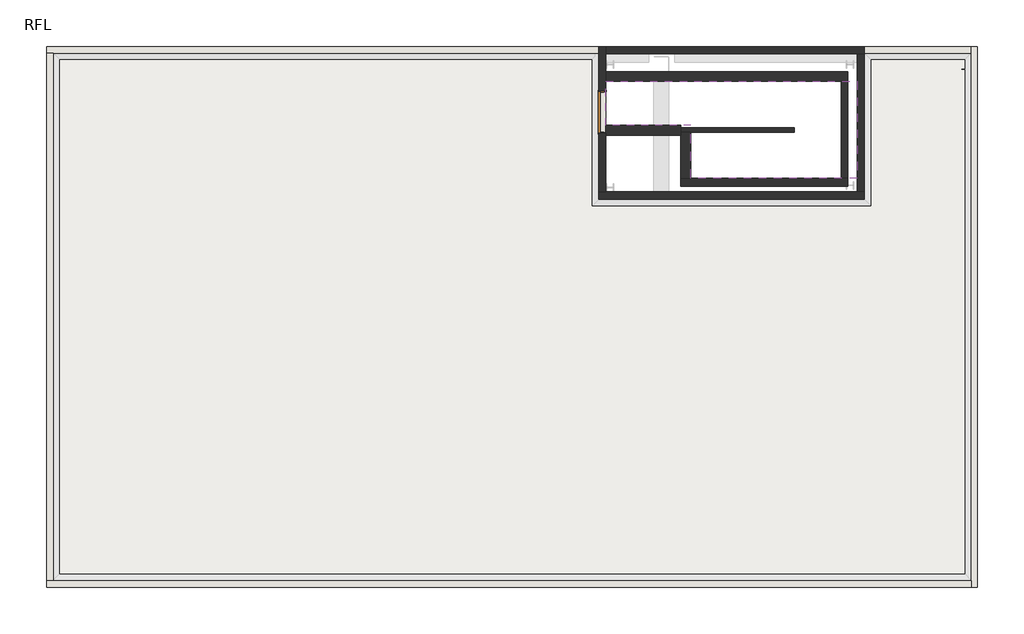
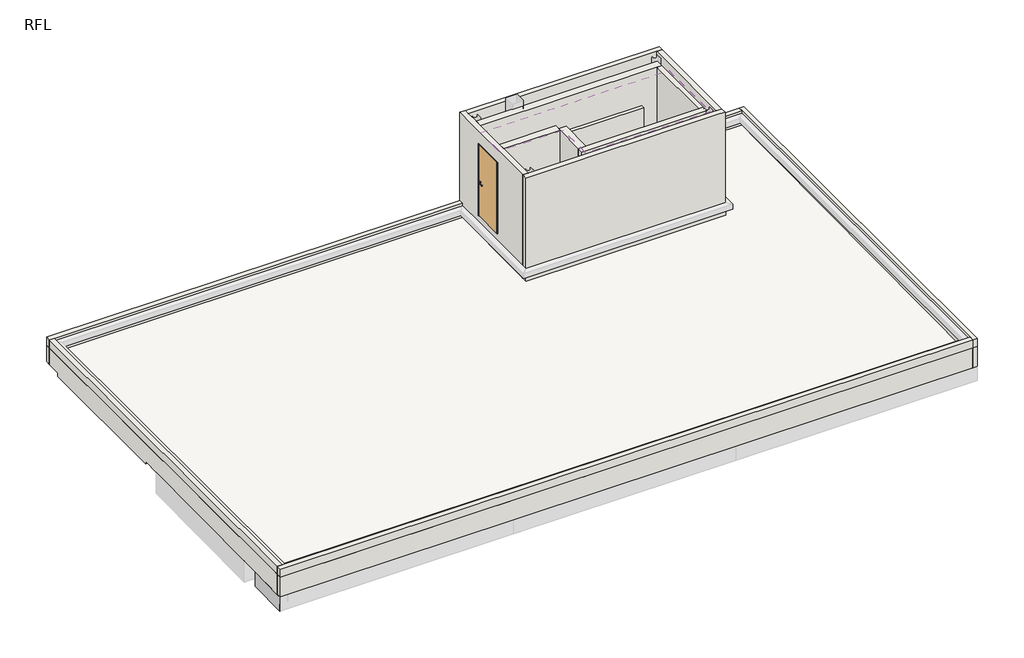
# One storey, part 1 of 2: 23 walls, 3 proxies, 1 beam, 1 covering, 1 door, 1 slab.
"""IFC4 building model written with IfcOpenShell, lengths in millimetres."""

from ifc_helpers import new_model, si_unit, frame, origin, place, context, project, spatial, polyline, outline, extrude, faceted_brep, transform, mapped, element, save
from components import door_2bc840b9

model = new_model("IFC4")

# Units and contexts
model_context = context("Model", 3, world=origin())
ifc_project = project(units=[si_unit("LENGTHUNIT", "METRE", prefix="MILLI")], contexts=[model_context])

# Site, building, storey
site = spatial("IfcSite", under=ifc_project)
building = spatial("IfcBuilding", under=site)
storey = spatial("IfcBuildingStorey", under=building, Name="RFL", Elevation=10000.0)

# Beam
placement = place(None, origin())
element("IfcBeam", 1, ObjectType="RC_2 : SG1(400X180)", at=placement, inside=storey, context=model_context, shape_type="Brep", body=[
    faceted_brep([(-70.0, -1405.9027414, 9449.1512175), (-70.0, -1406.0137522, 9460.0), (-70.0, -1409.9955504, 9849.1302781), (-270.0, -1409.9955504, 9849.1302781), (-270.0, -1406.0137522, 9460.0), (-270.0, -1405.9027414, 9449.1512175), (-125.0, -1405.9027414, 9449.1512175), (-70.0, -250.0, 9460.9790595), (-70.0, -250.0, 9861.0), (-70.0, -1230.0, 9850.972093), (-140.0, -250.0, 9861.0), (-270.0, -250.0, 9861.0), (-270.0, -1230.0, 9850.972093), (-270.0, -1290.0, 9850.3581395), (-270.0, -250.0, 9460.9790595), (-125.0, -250.0, 9460.9790595)], [[[0, 1, 2, 3, 4, 5, 6]], [[2, 1, 0, 7, 8, 9]], [[3, 2, 9, 8, 10, 11, 12, 13]], [[5, 4, 3, 13, 12, 11, 14]], [[0, 6, 5, 14, 15, 7]], [[8, 7, 15, 14, 11, 10]]]),
])

# Proxies
element("IfcBuildingElementProxy", 2, Name="Reveals", at=placement, inside=storey, context=model_context, shape_type="Brep", body=[
    faceted_brep([(16175.0, 6380.0, 10420.0), (16185.0, 6370.0, 10420.0), (16185.0, 6370.0, 10418.5615385), (10830.0, 6380.0, 10420.0), (10820.0, 6370.0, 10418.5615385), (10820.0, 6370.0, 10420.0)], [[[0, 1, 2]], [[3, 4, 5]], [[1, 0, 3, 5]], [[2, 1, 5, 4]], [[0, 2, 4, 3]]]),
])
element("IfcBuildingElementProxy", 3, Name="Reveals", at=placement, inside=storey, context=model_context, shape_type="Brep", body=[
    faceted_brep([(10830.0, 9320.0, 10420.0), (10820.0, 9320.0, 10418.5615385), (10820.0, 9320.0, 10420.0), (10830.0, 6380.0, 10420.0), (10820.0, 6370.0, 10420.0), (10820.0, 6370.0, 10418.5615385)], [[[0, 1, 2]], [[3, 4, 5]], [[0, 2, 4, 3]], [[2, 1, 5, 4]], [[1, 0, 3, 5]]]),
])
element("IfcBuildingElementProxy", 4, Name="Reveals", at=placement, inside=storey, context=model_context, shape_type="Brep", body=[
    faceted_brep([(16175.0, 6380.0, 10420.0), (16185.0, 6370.0, 10418.5615385), (16185.0, 6370.0, 10420.0), (16175.0, 9320.0, 10420.0), (16185.0, 9320.0, 10420.0), (16185.0, 9320.0, 10418.5615385)], [[[0, 1, 2]], [[3, 4, 5]], [[0, 2, 4, 3]], [[2, 1, 5, 4]], [[1, 0, 3, 5]]]),
])

# Covering
element("IfcCovering", 5, ObjectType="t=4mm", at=placement, inside=storey, context=model_context, shape_type="SweptSolid", body=[
    extrude(outline(polyline([(16030.0, 8747.5), (16030.0, 6804.5), (12685.0, 6804.5), (12685.0, 7862.5), (10975.0, 7862.5), (10975.0, 8747.5), (16030.0, 8747.5)])), frame((0.0, 0.0, 12950.0), z_axis=(0.0, 0.0, 1.0), x_axis=(1.0, 0.0, 0.0)), (0.0, 0.0, 1.0), 4.0),
])

# Door
door_shape = door_2bc840b9(model_context)
element("IfcDoor", 6, ObjectType="A1 片開 フラッシュ_A1枠 : SD15_H1800W700", at=placement, inside=storey, context=model_context, shape_type="MappedRepresentation", body=[
    mapped(door_shape, transform((10902.5, 8130.0, 10760.0), x_axis=(0.0, 1.0, 0.0), y_axis=(-1.0, 0.0, 0.0), z_axis=(0.0, 0.0, 1.0))),
])

# Slab
element("IfcSlab", 7, ObjectType="省エネ_RC屋根スラブ\u3000t150の上、アスファルト防水、押出法ポリスチレンフォーム1種t50、押さえコン", at=placement, inside=storey, context=model_context, shape_type="Brep", body=[
    faceted_brep([(18320.0, 9320.0, 9958.101509), (18320.0, -1290.0, 9850.6937686), (-140.0, -1290.0, 9850.6937686), (-140.0, 9320.0, 9958.101509), (10975.0, 9320.0, 9958.101509), (10975.0, 6525.0, 9929.80701), (16030.0, 6525.0, 9929.80701), (16030.0, 9320.0, 9958.101509), (17929.9999994, -150.0, 9862.2342798), (17929.9999994, 150.0, 9865.2712565), (12340.0000006, 150.0, 9865.2712565), (12340.0000006, -150.0, 9862.2342798), (5852.6999994, -150.0, 9862.2342798), (5852.6999994, 150.0, 9865.2712565), (237.3000006, 150.0, 9865.2712565), (237.3000006, -150.0, 9862.2342798), (18320.0, -1290.0, 10140.7086279), (18320.0, 9320.0, 10248.1163682), (16185.0, 9320.0, 10248.1163682), (16102.5, 9320.0, 10248.1163682), (16030.0, 9320.0, 10248.1163682), (16030.0, 9305.0, 10247.9645194), (16030.0, 6525.0, 10219.8218692), (10975.0, 6525.0, 10219.8218692), (10975.0, 9320.0, 10248.1163682), (-140.0, 9320.0, 10248.1163682), (-140.0, -1290.0, 10140.7086279), (17929.9999994, -150.0, 9870.0), (17929.9999994, 150.0, 9870.0), (12340.0000006, 150.0, 9870.0), (12340.0000006, -150.0, 9870.0), (5852.6999994, -150.0, 9870.0), (5852.6999994, 150.0, 9870.0), (237.3000006, 150.0, 9870.0), (237.3000006, -150.0, 9870.0)], [[[0, 1, 2, 3, 4, 5, 6, 7], [8, 9, 10, 11], [12, 13, 14, 15]], [[16, 17, 18, 19, 20, 21, 22, 23, 24, 25, 26]], [[1, 0, 17, 16]], [[2, 1, 16, 26]], [[3, 2, 26, 25]], [[4, 3, 25, 24]], [[5, 4, 24, 23]], [[6, 5, 23, 22]], [[7, 6, 22, 21, 20]], [[0, 7, 20, 19, 18, 17]], [[27, 28, 9, 8]], [[29, 30, 11, 10]], [[28, 29, 10, 9]], [[28, 27, 30, 29]], [[30, 27, 8, 11]], [[31, 32, 13, 12]], [[33, 34, 15, 14]], [[32, 33, 14, 13]], [[32, 31, 34, 33]], [[34, 31, 12, 15]]]),
])

# Walls
element("IfcWall", 8, ObjectType="• 省エネ_RC t120+押出法ポリスチレンフォーム保温版1種 t25", at=placement, inside=storey, context=model_context, shape_type="Brep", body=[
    faceted_brep([(16175.0, 6525.0, 10420.0), (16030.0, 6525.0, 10420.0), (10975.0, 6525.0, 10420.0), (10830.0, 6525.0, 10420.0), (10830.0, 6525.0, 10580.0), (10830.0, 6525.0, 13150.0), (10975.0, 6525.0, 13150.0), (16030.0, 6525.0, 13150.0), (16175.0, 6525.0, 13150.0), (16175.0, 6525.0, 10580.0), (10830.0, 6380.0, 10420.0), (16175.0, 6380.0, 10420.0), (16175.0, 6380.0, 10580.0), (16175.0, 6380.0, 13150.0), (16040.0, 6380.0, 13150.0), (10830.0, 6380.0, 13150.0), (10830.0, 6380.0, 10580.0), (10830.0, 6515.0, 13150.0)], [[[0, 1, 2, 3, 4, 5, 6, 7, 8, 9]], [[10, 11, 12, 13, 14, 15, 16]], [[3, 2, 1, 0, 11, 10]], [[8, 7, 6, 5, 17, 15, 14, 13]], [[3, 10, 16, 15, 17, 5, 4]], [[8, 13, 12, 11, 0, 9]]]),
])
element("IfcWall", 9, ObjectType="• 省エネ_RC t120+押出法ポリスチレンフォーム保温版1種 t25", at=placement, inside=storey, context=model_context, shape_type="Brep", body=[
    faceted_brep([(10975.0, 6525.0, 10420.0), (10975.0, 9305.0, 10420.0), (10975.0, 9450.0, 10420.0), (10975.0, 9450.0, 13150.0), (10975.0, 9305.0, 13150.0), (10975.0, 8947.5, 13150.0), (10975.0, 8747.5, 13150.0), (10975.0, 7862.5, 13150.0), (10975.0, 7662.5, 13150.0), (10975.0, 6525.0, 13150.0), (10975.0, 8557.5, 12787.5), (10975.0, 8557.5, 10760.0), (10975.0, 7702.5, 10760.0), (10975.0, 7702.5, 12787.5), (10830.0, 6525.0, 13150.0), (10830.0, 9315.0, 13150.0), (10830.0, 9450.0, 13150.0), (10830.0, 9450.0, 10650.0), (10830.0, 9450.0, 10420.0), (10830.0, 9320.0, 10420.0), (10830.0, 6525.0, 10420.0), (10830.0, 6525.0, 10580.0), (10830.0, 8557.5, 10760.0), (10830.0, 8557.5, 12787.5), (10830.0, 7702.5, 12787.5), (10830.0, 7702.5, 10760.0), (10902.5, 9450.0, 10420.0)], [[[0, 1, 2, 3, 4, 5, 6, 7, 8, 9], [10, 11, 12, 13]], [[14, 15, 16, 17, 18, 19, 20, 21], [22, 23, 24, 25]], [[2, 1, 0, 20, 19, 18, 26]], [[9, 8, 7, 6, 5, 4, 3, 16, 15, 14]], [[0, 9, 14, 21, 20]], [[10, 23, 22, 11]], [[24, 13, 12, 25]], [[23, 10, 13, 24]], [[25, 12, 11, 22]], [[3, 2, 26, 18, 17, 16]]]),
])
element("IfcWall", 10, ObjectType="• 省エネ_RC t120+押出法ポリスチレンフォーム保温版1種 t25", at=placement, inside=storey, context=model_context, shape_type="Brep", body=[
    faceted_brep([(16175.0, 9305.0, 13150.0), (16030.0, 9305.0, 13150.0), (10975.0, 9305.0, 13150.0), (10975.0, 9305.0, 10420.0), (10902.5, 9305.0, 10420.0), (10902.5, 9305.0, 9960.0), (11840.0, 9305.0, 9960.0), (11840.0, 9305.0, 9955.0), (12360.0, 9305.0, 9955.0), (12360.0, 9305.0, 9960.0), (16102.5, 9305.0, 9960.0), (16102.5, 9305.0, 10247.9645194), (16102.5, 9305.0, 10420.0), (16175.0, 9305.0, 10420.0), (10975.0, 9450.0, 13150.0), (16175.0, 9450.0, 13150.0), (16175.0, 9450.0, 10650.0), (16175.0, 9450.0, 10420.0), (16102.5, 9450.0, 10420.0), (16102.5, 9450.0, 9960.0), (12360.0, 9450.0, 9960.0), (12360.0, 9450.0, 9955.0), (11840.0, 9450.0, 9955.0), (11840.0, 9450.0, 9960.0), (10902.5, 9450.0, 9960.0), (10902.5, 9450.0, 10420.0), (10975.0, 9450.0, 10420.0), (16175.0, 9315.0, 13150.0), (16102.5, 9320.0, 9960.0), (10902.5, 9320.0, 9960.0), (10902.5, 9320.0, 10420.0), (16102.5, 9320.0, 10420.0), (16175.0, 9327.5, 10420.0), (16175.0, 9320.0, 10420.0)], [[[0, 1, 2, 3, 4, 5, 6, 7, 8, 9, 10, 11, 12, 13]], [[14, 15, 16, 17, 18, 19, 20, 21, 22, 23, 24, 25, 26]], [[21, 8, 7, 22]], [[2, 1, 0, 27, 15, 14]], [[20, 9, 8, 21]], [[9, 20, 19, 28, 10]], [[6, 23, 22, 7]], [[23, 6, 5, 29, 24]], [[4, 30, 25, 24, 29, 5]], [[12, 11, 10, 28, 19, 18, 31]], [[13, 12, 31, 18, 17, 32, 33]], [[15, 27, 0, 13, 33, 32, 17, 16]], [[26, 25, 30, 4, 3]], [[2, 14, 26, 3]]]),
])
element("IfcWall", 11, ObjectType="10+•PRP 120+25", at=placement, inside=storey, context=model_context, shape_type="Brep", body=[
    faceted_brep([(16185.0, 6525.0, 10219.8218692), (16030.0, 6525.0, 10219.8218692), (10975.0, 6525.0, 10219.8218692), (10820.0, 6525.0, 10219.8218692), (10820.0, 6525.0, 10418.5615385), (10830.0, 6525.0, 10420.0), (10975.0, 6525.0, 10420.0), (16030.0, 6525.0, 10420.0), (16175.0, 6525.0, 10420.0), (16185.0, 6525.0, 10418.5615385), (10820.0, 6370.0, 10218.2527646), (16185.0, 6370.0, 10218.2527646), (16185.0, 6370.0, 10418.5615385), (10820.0, 6370.0, 10418.5615385), (10830.0, 6380.0, 10420.0), (16175.0, 6380.0, 10420.0)], [[[0, 1, 2, 3, 4, 5, 6, 7, 8, 9]], [[10, 11, 12, 13]], [[8, 7, 6, 5, 14, 15]], [[12, 15, 14, 13]], [[3, 10, 13, 4]], [[13, 14, 5, 4]], [[11, 0, 9, 12]], [[15, 12, 9, 8]], [[11, 10, 3, 2, 1, 0]]]),
])
element("IfcWall", 12, ObjectType="10+•PRP 120+25", at=placement, inside=storey, context=model_context, shape_type="Brep", body=[
    faceted_brep([(10820.0, 9320.0, 10248.1163682), (10820.0, 6525.0, 10219.8218692), (10820.0, 6525.0, 10418.5615385), (10820.0, 9320.0, 10418.5615385), (10975.0, 9305.0, 10420.0), (10975.0, 6525.0, 10420.0), (10975.0, 6525.0, 10219.8218692), (10975.0, 9305.0, 10247.9645194), (10902.5, 9305.0, 10420.0), (10902.5, 9320.0, 10420.0), (10830.0, 9320.0, 10420.0), (10830.0, 6525.0, 10420.0), (10902.5, 9320.0, 10248.1163682), (10902.5, 9305.0, 10247.9645194)], [[[0, 1, 2, 3]], [[4, 5, 6, 7]], [[5, 4, 8, 9, 10, 11]], [[3, 2, 11, 10]], [[6, 5, 11, 2, 1]], [[9, 12, 0, 3, 10]], [[1, 0, 12, 13, 7, 6]], [[9, 8, 13, 12]], [[4, 7, 13, 8]]]),
])
element("IfcWall", 13, ObjectType="• 省エネ_RC t120+押出法ポリスチレンフォーム保温版1種 t25", at=placement, inside=storey, context=model_context, shape_type="Brep", body=[
    faceted_brep([(16030.0, 9305.0, 10420.0), (16030.0, 6525.0, 10420.0), (16030.0, 6525.0, 13150.0), (16030.0, 9305.0, 13150.0), (16175.0, 6525.0, 10420.0), (16175.0, 9305.0, 10420.0), (16175.0, 9305.0, 10580.0), (16175.0, 9305.0, 13150.0), (16175.0, 6525.0, 13150.0), (16175.0, 6525.0, 10580.0), (16102.5, 9305.0, 10420.0)], [[[0, 1, 2, 3]], [[4, 5, 6, 7, 8, 9]], [[1, 0, 10, 5, 4]], [[3, 2, 8, 7]], [[2, 1, 4, 9, 8]], [[5, 10, 0, 3, 7, 6]]]),
])
element("IfcWall", 14, ObjectType="10+•PRP 120+25", at=placement, inside=storey, context=model_context, shape_type="Brep", body=[
    faceted_brep([(16185.0, 6525.0, 10219.8218692), (16185.0, 9320.0, 10248.1163682), (16185.0, 9320.0, 10418.5615385), (16185.0, 6525.0, 10418.5615385), (16030.0, 9305.0, 10420.0), (16030.0, 9305.0, 10247.9645194), (16030.0, 6525.0, 10219.8218692), (16030.0, 6525.0, 10420.0), (16175.0, 6525.0, 10420.0), (16175.0, 9320.0, 10420.0), (16102.5, 9320.0, 10420.0), (16102.5, 9305.0, 10420.0), (16102.5, 9305.0, 10247.9645194), (16102.5, 9320.0, 10248.1163682)], [[[0, 1, 2, 3]], [[4, 5, 6, 7]], [[4, 7, 8, 9, 10, 11]], [[3, 2, 9, 8]], [[7, 6, 0, 3, 8]], [[1, 0, 6, 5, 12, 13]], [[13, 10, 9, 2, 1]], [[11, 10, 13, 12]], [[5, 4, 11, 12]]]),
])
element("IfcWall", 15, ObjectType="•PRP 120+10", at=placement, inside=storey, context=model_context, shape_type="Brep", body=[
    faceted_brep([(18450.0, 9450.0, 10420.0), (18450.0, -1420.0, 10420.0), (18450.0, -1420.0, 9860.0), (18450.0, -1230.0, 9860.0), (18450.0, -1230.0, 9851.6631278), (18450.0, -250.0, 9861.4052622), (18450.0, -250.0, 9865.0), (18450.0, 211.407112, 9865.0), (18450.0, 4340.0, 9907.2460668), (18450.0, 4340.0, 9912.0), (18450.0, 4804.5889302, 9912.0), (18450.0, 8998.1097598, 9954.9104457), (18450.0, 8998.119076, 9954.0), (18450.0, 9450.0, 9954.0), (18320.0, -1420.0, 10420.0), (18320.0, -1290.0, 10420.0), (18320.0, 9320.0, 10420.0), (18320.0, 9450.0, 10420.0), (18320.0, 9450.0, 9954.0), (18320.0, 9320.0, 9954.0), (18320.0, 8998.119076, 9954.0), (18320.0, 8998.1097598, 9954.9104457), (18320.0, 4804.5889302, 9912.0), (18320.0, 4340.0, 9912.0), (18320.0, 4340.0, 9907.2460668), (18320.0, 211.407112, 9865.0), (18320.0, -250.0, 9865.0), (18320.0, -250.0, 9861.4052622), (18320.0, -1230.0, 9851.6631278), (18320.0, -1230.0, 9860.0), (18320.0, -1290.0, 9860.0), (18320.0, -1420.0, 9860.0), (18330.0, 9450.0, 10420.0), (18330.0, -1420.0, 10420.0)], [[[0, 1, 2, 3, 4, 5, 6, 7, 8, 9, 10, 11, 12, 13]], [[14, 15, 16, 17, 18, 19, 20, 21, 22, 23, 24, 25, 26, 27, 28, 29, 30, 31]], [[1, 0, 32, 17, 16, 15, 14, 33]], [[1, 33, 14, 31, 2]], [[18, 13, 12, 20, 19]], [[11, 21, 20, 12]], [[11, 10, 22, 21]], [[17, 32, 0, 13, 18]], [[23, 9, 8, 24]], [[9, 23, 22, 10]], [[24, 8, 7, 25]], [[27, 5, 4, 28]], [[26, 6, 5, 27]], [[6, 26, 25, 7]], [[3, 29, 28, 4]], [[29, 3, 2, 31, 30]]]),
])
element("IfcWall", 16, ObjectType="•PRP 120+10", at=placement, inside=storey, context=model_context, shape_type="Brep", body=[
    faceted_brep([(16102.5, 9450.0, 10420.0), (16175.0, 9450.0, 10420.0), (18320.0, 9450.0, 10420.0), (18320.0, 9450.0, 9954.0), (17929.9999994, 9450.0, 9954.0), (17929.9999994, 9450.0, 9960.0), (16102.5, 9450.0, 9960.0), (18320.0, 9320.0, 10420.0), (16305.0, 9320.0, 10420.0), (16175.0, 9320.0, 10420.0), (16102.5, 9320.0, 10420.0), (16102.5, 9320.0, 10248.1163682), (16102.5, 9320.0, 9960.0), (17929.9999994, 9320.0, 9960.0), (17929.9999994, 9320.0, 9954.0), (18320.0, 9320.0, 9954.0)], [[[0, 1, 2, 3, 4, 5, 6]], [[7, 8, 9, 10, 11, 12, 13, 14, 15]], [[2, 1, 0, 10, 9, 8, 7]], [[13, 5, 4, 14]], [[5, 13, 12, 6]], [[4, 3, 15, 14]], [[2, 7, 15, 3]], [[10, 0, 6, 12, 11]]]),
])
element("IfcWall", 17, ObjectType="•PRP 120+10", at=placement, inside=storey, context=model_context, shape_type="Brep", body=[
    faceted_brep([(-270.0, -1290.0, 10420.0), (-140.0, -1290.0, 10420.0), (18320.0, -1290.0, 10420.0), (18320.0, -1290.0, 9860.0), (-270.0, -1290.0, 9860.0), (18320.0, -1420.0, 10420.0), (-270.0, -1420.0, 10420.0), (-270.0, -1420.0, 9860.0), (5987.1460713, -1420.0, 9860.0), (11961.9000006, -1420.0, 9860.0), (18320.0, -1420.0, 9860.0)], [[[0, 1, 2, 3, 4]], [[5, 6, 7, 8, 9, 10]], [[2, 1, 0, 6, 5]], [[2, 5, 10, 3]], [[6, 0, 4, 7]], [[3, 10, 9, 8, 7, 4]]]),
])
element("IfcWall", 18, ObjectType="•PRP 120+10", at=placement, inside=storey, context=model_context, shape_type="Brep", body=[
    faceted_brep([(-140.0, 9320.0, 10420.0), (-140.0, -1290.0, 10420.0), (-140.0, -1290.0, 9850.3581395), (-140.0, -250.0, 9861.0), (-140.0, -250.0, 9870.0), (-140.0, 250.0, 9870.0), (-140.0, 250.0, 9866.1162791), (-140.0, 4340.0, 9907.9674419), (-140.0, 4340.0, 9912.0), (-140.0, 4840.0, 9912.0), (-140.0, 4840.0, 9850.0), (-140.0, 8930.0, 9850.0), (-140.0, 8930.0, 9954.0), (-140.0, 9320.0, 9954.0), (-270.0, -1290.0, 10420.0), (-270.0, 9320.0, 10420.0), (-270.0, 9320.0, 9954.0), (-270.0, 8930.0, 9954.0), (-270.0, 8930.0, 9850.0), (-270.0, 4840.0, 9850.0), (-270.0, 4840.0, 9912.0), (-270.0, 4340.0, 9912.0), (-270.0, 4340.0, 9907.9674419), (-270.0, 250.0, 9866.1162791), (-270.0, 250.0, 9870.0), (-270.0, -250.0, 9870.0), (-270.0, -250.0, 9861.0), (-270.0, -1290.0, 9850.3581395), (-270.0, -1290.0, 9860.0)], [[[0, 1, 2, 3, 4, 5, 6, 7, 8, 9, 10, 11, 12, 13]], [[14, 15, 16, 17, 18, 19, 20, 21, 22, 23, 24, 25, 26, 27, 28]], [[18, 11, 10, 19]], [[1, 0, 15, 14]], [[1, 14, 28, 27, 2]], [[15, 0, 13, 16]], [[17, 12, 11, 18]], [[13, 12, 17, 16]], [[22, 7, 6, 23]], [[21, 8, 7, 22]], [[9, 20, 19, 10]], [[8, 21, 20, 9]], [[2, 27, 26, 3]], [[25, 4, 3, 26]], [[5, 24, 23, 6]], [[4, 25, 24, 5]]]),
])
element("IfcWall", 19, ObjectType="•PRP 120+10", at=placement, inside=storey, context=model_context, shape_type="Brep", body=[
    faceted_brep([(-270.0, 9450.0, 10420.0), (10830.0, 9450.0, 10420.0), (10902.5, 9450.0, 10420.0), (10902.5, 9450.0, 9960.0), (6340.0000006, 9450.0, 9960.0), (6340.0000006, 9450.0, 9954.0), (5840.0, 9450.0, 9954.0), (5840.0, 9450.0, 9960.0), (250.0, 9450.0, 9960.0), (250.0, 9450.0, 9954.0), (-270.0, 9450.0, 9954.0), (10902.5, 9320.0, 10420.0), (10830.0, 9320.0, 10420.0), (-140.0, 9320.0, 10420.0), (-270.0, 9320.0, 10420.0), (-270.0, 9320.0, 9954.0), (-140.0, 9320.0, 9954.0), (250.0, 9320.0, 9954.0), (250.0, 9320.0, 9960.0), (5840.0, 9320.0, 9960.0), (5840.0, 9320.0, 9954.0), (6340.0000006, 9320.0, 9954.0), (6340.0000006, 9320.0, 9960.0), (10902.5, 9320.0, 9960.0), (10902.5, 9320.0, 10248.1163682)], [[[0, 1, 2, 3, 4, 5, 6, 7, 8, 9, 10]], [[11, 12, 13, 14, 15, 16, 17, 18, 19, 20, 21, 22, 23, 24]], [[2, 1, 0, 14, 13, 12, 11]], [[2, 11, 24, 23, 3]], [[14, 0, 10, 15]], [[17, 16, 15, 10, 9]], [[19, 7, 6, 20]], [[8, 18, 17, 9]], [[18, 8, 7, 19]], [[4, 22, 21, 5]], [[22, 4, 3, 23]], [[6, 5, 21, 20]]]),
])
element("IfcWall", 20, ObjectType="•PRP 120", at=placement, inside=storey, context=model_context, shape_type="Brep", body=[
    faceted_brep([(18450.0, -1420.0, 10420.0), (18450.0, 9450.0, 10420.0), (18450.0, 9450.0, 10650.0), (18450.0, -1420.0, 10650.0), (18330.0, -1420.0, 10420.0), (18330.0, -1420.0, 10650.0), (18330.0, -1290.0, 10650.0), (18330.0, 9320.0, 10650.0), (18330.0, 9450.0, 10650.0), (18330.0, 9450.0, 10420.0), (18330.0, 9320.0, 10420.0), (18330.0, -1290.0, 10420.0)], [[[0, 1, 2, 3]], [[4, 5, 6, 7, 8, 9, 10, 11]], [[1, 0, 4, 11, 10, 9]], [[3, 2, 8, 7, 6, 5]], [[2, 1, 9, 8]], [[0, 3, 5, 4]]]),
])
element("IfcWall", 21, ObjectType="•PRP 120+10", at=placement, inside=storey, context=model_context, shape_type="Brep", body=[
    faceted_brep([(18330.0, 9450.0, 10420.0), (18320.0, 9450.0, 10420.0), (16175.0, 9450.0, 10420.0), (16175.0, 9450.0, 10650.0), (18330.0, 9450.0, 10650.0), (18330.0, 9320.0, 10650.0), (16175.0, 9320.0, 10650.0), (16175.0, 9320.0, 10580.0), (16305.0, 9320.0, 10561.3), (16305.0, 9320.0, 10420.0), (18320.0, 9320.0, 10420.0), (18330.0, 9320.0, 10420.0), (16305.0, 9327.5, 10420.0), (16175.0, 9327.5, 10420.0), (16175.0, 9327.5, 10580.0), (16305.0, 9327.5, 10561.3)], [[[0, 1, 2, 3, 4]], [[5, 6, 7, 8, 9, 10, 11]], [[2, 1, 0, 11, 10, 9, 12, 13]], [[4, 3, 6, 5]], [[0, 4, 5, 11]], [[3, 2, 13, 14, 7, 6]], [[15, 14, 13, 12]], [[14, 15, 8, 7]], [[15, 12, 9, 8]]]),
])
element("IfcWall", 22, ObjectType="•PRP 120+10", at=placement, inside=storey, context=model_context, shape_type="Brep", body=[
    faceted_brep([(18330.0, -1290.0, 10420.0), (18320.0, -1290.0, 10420.0), (18200.0, -1290.0, 10420.0), (-140.0, -1290.0, 10420.0), (-270.0, -1290.0, 10420.0), (-270.0, -1290.0, 10650.0), (-140.0, -1290.0, 10650.0), (18330.0, -1290.0, 10650.0), (18330.0, -1420.0, 10420.0), (18330.0, -1420.0, 10650.0), (-270.0, -1420.0, 10650.0), (-270.0, -1420.0, 10420.0), (18320.0, -1420.0, 10420.0)], [[[0, 1, 2, 3, 4, 5, 6, 7]], [[8, 9, 10, 11, 12]], [[4, 3, 2, 1, 0, 8, 12, 11]], [[7, 6, 5, 10, 9]], [[5, 4, 11, 10]], [[0, 7, 9, 8]]]),
])
element("IfcWall", 23, ObjectType="•PRP 120+10", at=placement, inside=storey, context=model_context, shape_type="SweptSolid", body=[
    extrude(outline(polyline([(-140.0, 9320.0), (-140.0, -1290.0), (-270.0, -1290.0), (-270.0, 9320.0), (-140.0, 9320.0)])), frame((0.0, 0.0, 10420.0), z_axis=(0.0, 0.0, 1.0), x_axis=(1.0, 0.0, 0.0)), (0.0, 0.0, 1.0), 230.0),
])
element("IfcWall", 24, ObjectType="•PRP 120+10", at=placement, inside=storey, context=model_context, shape_type="Brep", body=[
    faceted_brep([(10830.0, 9450.0, 10420.0), (-270.0, 9450.0, 10420.0), (-270.0, 9450.0, 10650.0), (10830.0, 9450.0, 10650.0), (10830.0, 9320.0, 10420.0), (10830.0, 9320.0, 10650.0), (-140.0, 9320.0, 10650.0), (-270.0, 9320.0, 10650.0), (-270.0, 9320.0, 10420.0), (-140.0, 9320.0, 10420.0)], [[[0, 1, 2, 3]], [[4, 5, 6, 7, 8, 9]], [[1, 0, 4, 9, 8]], [[3, 2, 7, 6, 5]], [[2, 1, 8, 7]], [[0, 3, 5, 4]]]),
])
element("IfcWall", 25, ObjectType="•RC200", at=placement, inside=storey, context=model_context, shape_type="Brep", body=[
    faceted_brep([(10975.0, 8747.5, 13150.0), (10975.0, 8747.5, 9960.0), (11590.0, 8747.5, 9960.0), (15710.0, 8747.5, 9960.0), (15840.0, 8747.5, 9960.0), (15840.0, 8747.5, 13150.0), (15710.0, 8747.5, 13150.0), (10975.0, 8947.5, 9960.0), (10975.0, 8947.5, 13150.0), (15840.0, 8947.5, 13150.0), (15840.0, 8947.5, 9960.0), (11590.0, 8947.5, 9960.0)], [[[0, 1, 2, 3, 4, 5, 6]], [[7, 8, 9, 10, 11]], [[4, 3, 2, 1, 7, 11, 10]], [[0, 6, 5, 9, 8]], [[0, 8, 7, 1]], [[5, 4, 10, 9]]]),
])
element("IfcWall", 26, ObjectType="•RC164.5", at=placement, inside=storey, context=model_context, shape_type="Brep", body=[
    faceted_brep([(12485.0, 6640.0, 9960.0), (12490.0, 6640.0, 9960.0), (15840.0, 6640.0, 9960.0), (15840.0, 6640.0, 13150.0), (12485.0, 6640.0, 13150.0), (12485.0, 6804.5, 9960.0), (12485.0, 6804.5, 13150.0), (12685.0, 6804.5, 13150.0), (15710.0, 6804.5, 13150.0), (15840.0, 6804.5, 13150.0), (15840.0, 6804.5, 9960.0), (15710.0, 6804.5, 9960.0), (12685.0, 6804.5, 9960.0), (12490.0, 6804.5, 9960.0)], [[[0, 1, 2, 3, 4]], [[5, 6, 7, 8, 9, 10, 11, 12, 13]], [[2, 1, 0, 5, 13, 12, 11, 10]], [[4, 3, 9, 8, 7, 6]], [[0, 4, 6, 5]], [[3, 2, 10, 9]]]),
])
element("IfcWall", 27, ObjectType="•RC130", at=placement, inside=storey, context=model_context, shape_type="SweptSolid", body=[
    extrude(outline(polyline([(15710.0, 6804.5), (15710.0, 8747.5), (15840.0, 8747.5), (15840.0, 6804.5), (15710.0, 6804.5)])), frame((0.0, 0.0, 9960.0), z_axis=(0.0, 0.0, 1.0), x_axis=(1.0, 0.0, 0.0)), (0.0, 0.0, 1.0), 3190.0),
])
element("IfcWall", 28, ObjectType="•RC90", at=placement, inside=storey, context=model_context, shape_type="Brep", body=[
    faceted_brep([(14770.0000002, 7820.0000077, 9960.0), (12642.5000144, 7820.0000124, 9960.0), (12485.0, 7820.0000128, 9960.0), (12485.0, 7820.0000128, 12950.0), (14770.0000002, 7820.0000077, 12950.0), (14770.0, 7730.0000077, 9960.0), (14770.0, 7730.0000077, 12950.0), (12485.0, 7730.0000128, 12950.0), (12485.0, 7730.0000128, 9960.0), (12642.5000142, 7730.0000124, 9960.0), (12685.0, 7730.0000123, 9960.0)], [[[0, 1, 2, 3, 4]], [[5, 6, 7, 8, 9, 10]], [[2, 1, 0, 5, 10, 9, 8]], [[4, 3, 7, 6]], [[0, 4, 6, 5]], [[3, 2, 8, 7]]]),
])
element("IfcWall", 29, ObjectType="•RC200", at=placement, inside=storey, context=model_context, shape_type="Brep", body=[
    faceted_brep([(12685.0, 6804.5, 9960.0), (12685.0, 7730.0000123, 9960.0), (12685.0, 7730.0000123, 13150.0), (12685.0, 6804.5, 13150.0), (12485.0, 6804.5, 9960.0), (12485.0, 6804.5, 13150.0), (12485.0, 7662.5, 13150.0), (12485.0, 7730.0000128, 13150.0), (12485.0, 7730.0000128, 12950.0), (12485.0, 7730.0000128, 9960.0), (12485.0, 7662.5, 9960.0)], [[[0, 1, 2, 3]], [[4, 5, 6, 7, 8, 9, 10]], [[1, 0, 4, 10, 9]], [[3, 2, 7, 6, 5]], [[0, 3, 5, 4]], [[2, 1, 9, 8, 7]]]),
])
element("IfcWall", 30, ObjectType="•RC200", at=placement, inside=storey, context=model_context, shape_type="Brep", body=[
    faceted_brep([(10975.0, 7662.5, 13150.0), (10975.0, 7662.5, 9960.0), (12485.0, 7662.5, 9960.0), (12485.0, 7662.5, 13150.0), (10975.0, 7862.5, 9960.0), (10975.0, 7862.5, 13150.0), (12485.0, 7862.5, 13150.0), (12485.0, 7862.5, 9960.0), (12485.0, 7820.0000128, 9960.0), (12485.0, 7730.0000128, 9960.0), (12485.0, 7730.0000128, 13150.0)], [[[0, 1, 2, 3]], [[4, 5, 6, 7]], [[2, 1, 4, 7, 8, 9]], [[0, 3, 10, 6, 5]], [[3, 2, 9, 8, 7, 6, 10]], [[0, 5, 4, 1]]]),
])

save(model, "model.ifc")
